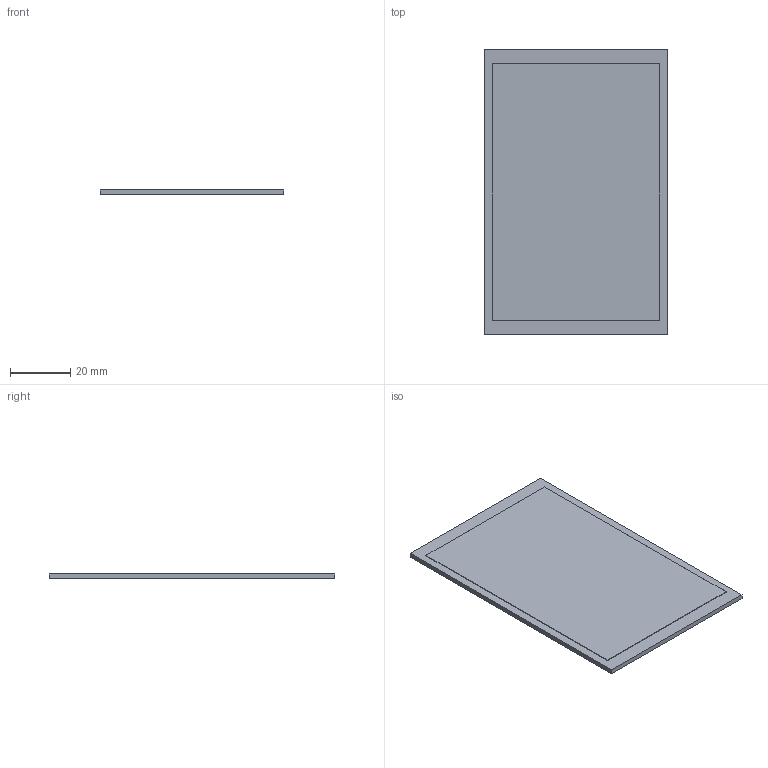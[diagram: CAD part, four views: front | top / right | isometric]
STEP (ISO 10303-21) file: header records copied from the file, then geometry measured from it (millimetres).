
FILE_DESCRIPTION(('Open CASCADE Model'),'2;1');
FILE_NAME('Open CASCADE Shape Model','2026-09-03T14:37:12',('Author'),( 'Open CASCADE'),'Open CASCADE STEP processor 7.9','Open CASCADE 7.9' ,'Unknown');
FILE_SCHEMA(('AUTOMOTIVE_DESIGN { 1 0 10303 214 1 1 1 1 }'));
Length unit declared in the file: millimetre
Products named in the file (3): ILI9488_4in_TFT_V3; TFT_body; display_glass
Assembly tree (2 placements, depth 2):
  ILI9488_4in_TFT_V3
    TFT_body
    display_glass
Bounding box: 60.88 x 94.57 x 1.8 mm (x, y, z)
Volume: 10155.4 mm3; surface area: 21503.5 mm2
Topology: 2 solids, 2 shells, 12 faces, 24 edges, 16 vertices
Faces by surface type: plane 12
Entity records: 682 total; most frequent: CARTESIAN_POINT 103, DIRECTION 102, LINE 72, VECTOR 72, ORIENTED_EDGE 48, PCURVE 48, DEFINITIONAL_REPRESENTATION 48, EDGE_CURVE 24
